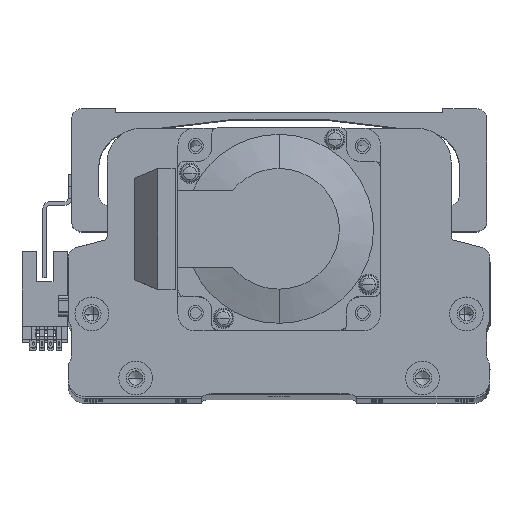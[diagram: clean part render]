
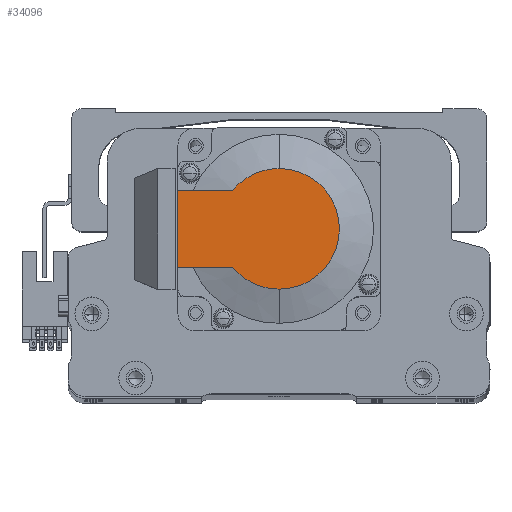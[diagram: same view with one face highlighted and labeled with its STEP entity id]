
A CAD part, top view. The second image highlights one B-rep face of the part: STEP entity #34096.
In plain terms, the highlighted planar face has unit normal (0, 0, 1) as drawn and (-1, 0, 0) by its records, which use the part's own axes.
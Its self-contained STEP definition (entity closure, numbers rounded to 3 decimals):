
#1335 = CARTESIAN_POINT ( 'NONE',  ( -118.5, -8.941, 0. ) ) ;
#3715 = CIRCLE ( 'NONE', #37360, 17.881 ) ;
#3752 = ORIENTED_EDGE ( 'NONE', *, *, #46609, .T. ) ;
#5510 = DIRECTION ( 'NONE',  ( 0., 0., 1. ) ) ;
#7341 = ORIENTED_EDGE ( 'NONE', *, *, #47214, .T. ) ;
#7599 = CARTESIAN_POINT ( 'NONE',  ( -118.5, 13.735, 11.45 ) ) ;
#7774 = CARTESIAN_POINT ( 'NONE',  ( -118.5, 30., 25. ) ) ;
#7907 = CARTESIAN_POINT ( 'NONE',  ( -118.5, 0., 17.881 ) ) ;
#8778 = CIRCLE ( 'NONE', #42170, 17.881 ) ;
#8853 = VERTEX_POINT ( 'NONE', #15013 ) ;
#9287 = DIRECTION ( 'NONE',  ( -1., 0., 0. ) ) ;
#10526 = EDGE_CURVE ( 'NONE', #49334, #12679, #3715, .T. ) ;
#11500 = LINE ( 'NONE', #7774, #32331 ) ;
#12204 = ORIENTED_EDGE ( 'NONE', *, *, #46431, .F. ) ;
#12304 = DIRECTION ( 'NONE',  ( 0., -1., 0. ) ) ;
#12679 = VERTEX_POINT ( 'NONE', #7599 ) ;
#13392 = EDGE_CURVE ( 'NONE', #8853, #49783, #21460, .T. ) ;
#13472 = AXIS2_PLACEMENT_3D ( 'NONE', #1335, #30427, #5510 ) ;
#15013 = CARTESIAN_POINT ( 'NONE',  ( -118.5, 30., -11.45 ) ) ;
#17130 = CARTESIAN_POINT ( 'NONE',  ( -118.5, 0., 0. ) ) ;
#20582 = ORIENTED_EDGE ( 'NONE', *, *, #10526, .T. ) ;
#21359 = DIRECTION ( 'NONE',  ( 0., 0., -1. ) ) ;
#21460 = LINE ( 'NONE', #33151, #52038 ) ;
#22160 = VECTOR ( 'NONE', #12304, 1000. ) ;
#23635 = CARTESIAN_POINT ( 'NONE',  ( -118.5, 13.735, -11.45 ) ) ;
#24282 = DIRECTION ( 'NONE',  ( 0., 0., 1. ) ) ;
#24347 = CARTESIAN_POINT ( 'NONE',  ( -118.5, 0., 0. ) ) ;
#24422 = EDGE_LOOP ( 'NONE', ( #47151, #3752, #7341, #20582, #28341, #12204 ) ) ;
#25161 = EDGE_CURVE ( 'NONE', #38408, #12679, #34514, .T. ) ;
#26399 = CARTESIAN_POINT ( 'NONE',  ( -118.5, 30., 11.45 ) ) ;
#28341 = ORIENTED_EDGE ( 'NONE', *, *, #25161, .F. ) ;
#28552 = DIRECTION ( 'NONE',  ( 0., 0., -1. ) ) ;
#28739 = CARTESIAN_POINT ( 'NONE',  ( -118.5, 0., -17.881 ) ) ;
#28951 = DIRECTION ( 'NONE',  ( 0., -1., 0. ) ) ;
#30314 = AXIS2_PLACEMENT_3D ( 'NONE', #17130, #46222, #21359 ) ;
#30427 = DIRECTION ( 'NONE',  ( -1., 0., 0. ) ) ;
#32331 = VECTOR ( 'NONE', #24282, 1000. ) ;
#33151 = CARTESIAN_POINT ( 'NONE',  ( -118.5, -8.941, -11.45 ) ) ;
#33367 = FACE_OUTER_BOUND ( 'NONE', #24422, .T. ) ;
#34096 = ADVANCED_FACE ( 'NONE', ( #33367 ), #34412, .T. ) ;
#34176 = CARTESIAN_POINT ( 'NONE',  ( -118.5, 0., 0. ) ) ;
#34412 = PLANE ( 'NONE',  #13472 ) ;
#34514 = LINE ( 'NONE', #41387, #22160 ) ;
#37360 = AXIS2_PLACEMENT_3D ( 'NONE', #24347, #53459, #28552 ) ;
#38390 = DIRECTION ( 'NONE',  ( 0., 0., -1. ) ) ;
#38408 = VERTEX_POINT ( 'NONE', #26399 ) ;
#40823 = VERTEX_POINT ( 'NONE', #28739 ) ;
#41387 = CARTESIAN_POINT ( 'NONE',  ( -118.5, 0., 11.45 ) ) ;
#42170 = AXIS2_PLACEMENT_3D ( 'NONE', #34176, #9287, #38390 ) ;
#46222 = DIRECTION ( 'NONE',  ( -1., 0., 0. ) ) ;
#46431 = EDGE_CURVE ( 'NONE', #8853, #38408, #11500, .T. ) ;
#46609 = EDGE_CURVE ( 'NONE', #49783, #40823, #47872, .T. ) ;
#47151 = ORIENTED_EDGE ( 'NONE', *, *, #13392, .T. ) ;
#47214 = EDGE_CURVE ( 'NONE', #40823, #49334, #8778, .T. ) ;
#47872 = CIRCLE ( 'NONE', #30314, 17.881 ) ;
#49334 = VERTEX_POINT ( 'NONE', #7907 ) ;
#49783 = VERTEX_POINT ( 'NONE', #23635 ) ;
#52038 = VECTOR ( 'NONE', #28951, 1000. ) ;
#53459 = DIRECTION ( 'NONE',  ( -1., 0., 0. ) ) ;
